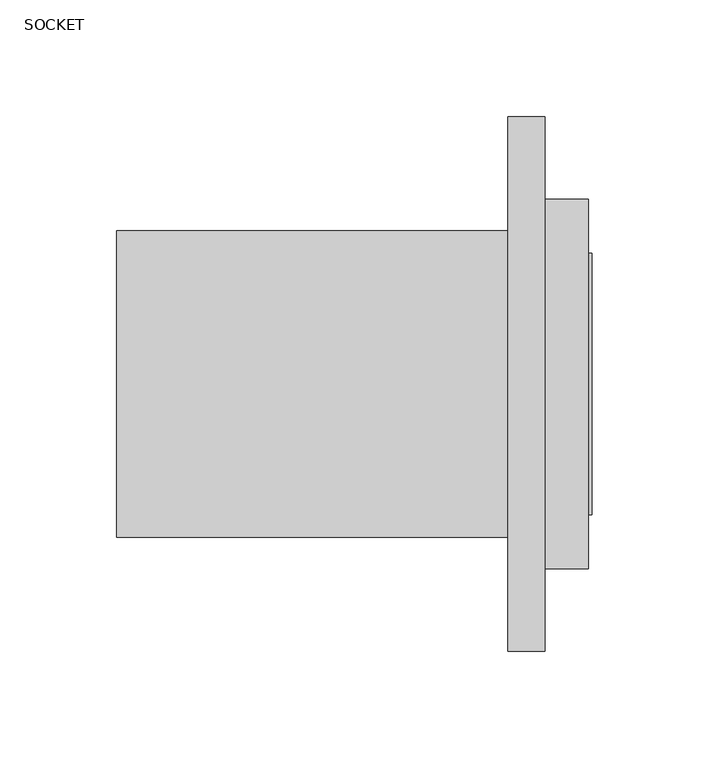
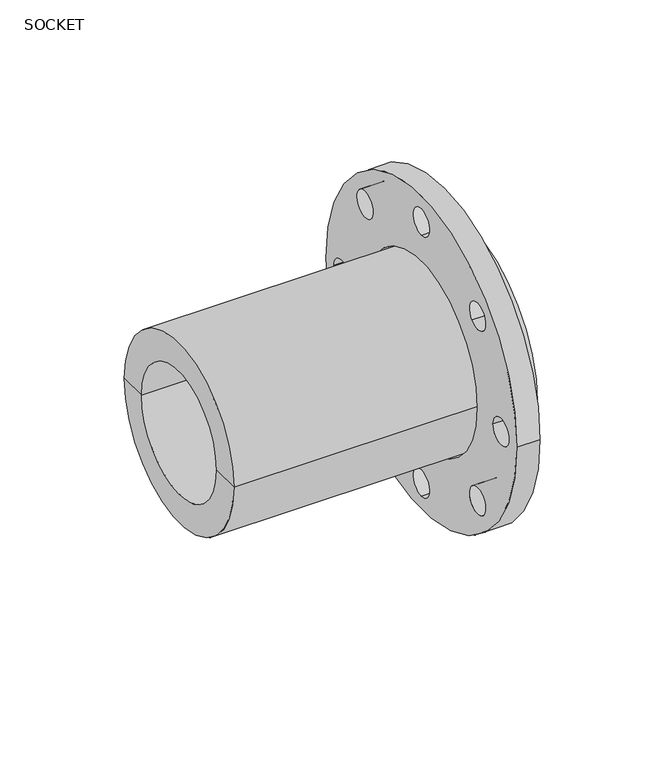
"""IFC4 building model written with IfcOpenShell, lengths in millimetres: valve geometry, Aquatherm - Flange Adapter Socket : SOCKET."""

from ifc_helpers import new_model, si_unit, point, frame, frame_2d, origin, origin_2d, place, context, project, spatial, polyline, circle_curve, trimmed, segment, composite_curve, outline, extrude, source, transform, mapped, element, save
from ifc_brep_helpers import plane_surface, cylinder_surface, revolved_surface, advanced_brep


def socket_3facf4fc(model_context):
    return source(origin(), model_context, "Body", "SolidModel", [
        extrude(outline(composite_curve([segment(trimmed(circle_curve(origin_2d(), 114.3), [point((-114.3, 0.0))], [point((114.3, 0.0))], False, "CARTESIAN"), True, "CONTINUOUS"), segment(trimmed(circle_curve(origin_2d(), 114.3), [point((114.3, 0.0))], [point((-114.3, 0.0))], False, "CARTESIAN"), True, "CONTINUOUS")], self_intersect=False), holes=[composite_curve([segment(trimmed(circle_curve(origin_2d(), 66.675), [point((-66.675, 0.0))], [point((66.675, 0.0))], True, "CARTESIAN"), True, "CONTINUOUS"), segment(trimmed(circle_curve(origin_2d(), 66.675), [point((66.675, 0.0))], [point((-66.675, 0.0))], True, "CARTESIAN"), True, "CONTINUOUS")], self_intersect=False), composite_curve([segment(trimmed(circle_curve(frame_2d((95.25, 0.0)), 9.525), [point((85.725, 0.0))], [point((104.775, 0.0))], True, "CARTESIAN"), True, "CONTINUOUS"), segment(trimmed(circle_curve(frame_2d((95.25, 0.0)), 9.525), [point((104.775, 0.0))], [point((85.725, 0.0))], True, "CARTESIAN"), True, "CONTINUOUS")], self_intersect=False), composite_curve([segment(trimmed(circle_curve(frame_2d((67.3519209, -67.3519209)), 9.525), [point((60.6167288, -60.6167288))], [point((74.087113, -74.087113))], True, "CARTESIAN"), True, "CONTINUOUS"), segment(trimmed(circle_curve(frame_2d((67.3519209, -67.3519209)), 9.525), [point((74.087113, -74.087113))], [point((60.6167288, -60.6167288))], True, "CARTESIAN"), True, "CONTINUOUS")], self_intersect=False), composite_curve([segment(trimmed(circle_curve(frame_2d((67.3519209, 67.3519209)), 9.525), [point((60.6167288, 60.6167288))], [point((74.087113, 74.087113))], True, "CARTESIAN"), True, "CONTINUOUS"), segment(trimmed(circle_curve(frame_2d((67.3519209, 67.3519209)), 9.525), [point((74.087113, 74.087113))], [point((60.6167288, 60.6167288))], True, "CARTESIAN"), True, "CONTINUOUS")], self_intersect=False), composite_curve([segment(trimmed(circle_curve(frame_2d((0.0, 95.25)), 9.525), [point((0.0, 85.725))], [point((0.0, 104.775))], True, "CARTESIAN"), True, "CONTINUOUS"), segment(trimmed(circle_curve(frame_2d((0.0, 95.25)), 9.525), [point((0.0, 104.775))], [point((0.0, 85.725))], True, "CARTESIAN"), True, "CONTINUOUS")], self_intersect=False), composite_curve([segment(trimmed(circle_curve(frame_2d((-67.3519209, 67.3519209)), 9.525), [point((-60.6167288, 60.6167288))], [point((-74.087113, 74.087113))], True, "CARTESIAN"), True, "CONTINUOUS"), segment(trimmed(circle_curve(frame_2d((-67.3519209, 67.3519209)), 9.525), [point((-74.087113, 74.087113))], [point((-60.6167288, 60.6167288))], True, "CARTESIAN"), True, "CONTINUOUS")], self_intersect=False), composite_curve([segment(trimmed(circle_curve(frame_2d((-95.25, 0.0)), 9.525), [point((-85.725, 0.0))], [point((-104.775, 0.0))], True, "CARTESIAN"), True, "CONTINUOUS"), segment(trimmed(circle_curve(frame_2d((-95.25, 0.0)), 9.525), [point((-104.775, 0.0))], [point((-85.725, 0.0))], True, "CARTESIAN"), True, "CONTINUOUS")], self_intersect=False), composite_curve([segment(trimmed(circle_curve(frame_2d((-67.3519209, -67.3519209)), 9.525), [point((-60.6167288, -60.6167288))], [point((-74.087113, -74.087113))], True, "CARTESIAN"), True, "CONTINUOUS"), segment(trimmed(circle_curve(frame_2d((-67.3519209, -67.3519209)), 9.525), [point((-74.087113, -74.087113))], [point((-60.6167288, -60.6167288))], True, "CARTESIAN"), True, "CONTINUOUS")], self_intersect=False), composite_curve([segment(trimmed(circle_curve(frame_2d((0.0, -95.25)), 9.525), [point((0.0, -85.725))], [point((0.0, -104.775))], True, "CARTESIAN"), True, "CONTINUOUS"), segment(trimmed(circle_curve(frame_2d((0.0, -95.25)), 9.525), [point((0.0, -104.775))], [point((0.0, -85.725))], True, "CARTESIAN"), True, "CONTINUOUS")], self_intersect=False)]), frame((-16.002, 0.0, 0.0), z_axis=(1.0, 0.0, 0.0), x_axis=(0.0, 1.0, 0.0)), (0.0, 0.0, 1.0), 16.002),
        advanced_brep(
        [(20.066, 50.8, 0.0), (20.066, -50.8, 0.0), (20.066, -55.88, 0.0), (20.066, 55.88, 0.0), (0.0, 50.8, 0.0), (0.0, -50.8, 0.0), (0.0, 44.958, 0.0), (0.0, -44.958, 0.0), (-183.388, 44.958, 0.0), (-183.388, -44.958, 0.0), (-183.388, 65.532, 0.0), (-183.388, -65.532, 0.0), (0.0, 65.532, 0.0), (0.0, -65.532, 0.0), (0.0, 78.994, 0.0), (0.0, -78.994, 0.0), (18.542, 78.994, 0.0), (18.542, -78.994, 0.0), (18.542, 55.88, 0.0), (18.542, -55.88, 0.0)],
        [
            (0, 1, circle_curve(frame((20.066, 0.0, 0.0), z_axis=(-1.0, 0.0, 0.0), x_axis=(0.0, -1.0, 0.0)), 50.8)),
            (1, 2),
            (2, 3, circle_curve(frame((20.066, 0.0, 0.0), z_axis=(1.0, 0.0, 0.0), x_axis=(0.0, -1.0, 0.0)), 55.88)),
            (3, 0),
            (1, 0, circle_curve(frame((20.066, 0.0, 0.0), z_axis=(-1.0, 0.0, 0.0), x_axis=(0.0, -1.0, 0.0)), 50.8)),
            (3, 2, circle_curve(frame((20.066, 0.0, 0.0), z_axis=(1.0, 0.0, 0.0), x_axis=(0.0, -1.0, 0.0)), 55.88)),
            (4, 5, circle_curve(frame((0.0, 0.0, 0.0), z_axis=(-1.0, 0.0, 0.0), x_axis=(0.0, -1.0, 0.0)), 50.8)),
            (5, 1),
            (0, 4),
            (5, 4, circle_curve(frame((0.0, 0.0, 0.0), z_axis=(-1.0, 0.0, 0.0), x_axis=(0.0, -1.0, 0.0)), 50.8)),
            (6, 7, circle_curve(frame((0.0, 0.0, 0.0), z_axis=(-1.0, 0.0, 0.0), x_axis=(0.0, -1.0, 0.0)), 44.958)),
            (7, 5),
            (4, 6),
            (7, 6, circle_curve(frame((0.0, 0.0, 0.0), z_axis=(-1.0, 0.0, 0.0), x_axis=(0.0, -1.0, 0.0)), 44.958)),
            (8, 9, circle_curve(frame((-183.388, 0.0, 0.0), z_axis=(-1.0, 0.0, 0.0), x_axis=(0.0, -1.0, 0.0)), 44.958)),
            (9, 7),
            (6, 8),
            (9, 8, circle_curve(frame((-183.388, 0.0, 0.0), z_axis=(-1.0, 0.0, 0.0), x_axis=(0.0, -1.0, 0.0)), 44.958)),
            (10, 11, circle_curve(frame((-183.388, 0.0, 0.0), z_axis=(-1.0, 0.0, 0.0), x_axis=(0.0, -1.0, 0.0)), 65.532)),
            (11, 9),
            (8, 10),
            (11, 10, circle_curve(frame((-183.388, 0.0, 0.0), z_axis=(-1.0, 0.0, 0.0), x_axis=(0.0, -1.0, 0.0)), 65.532)),
            (12, 13, circle_curve(frame((0.0, 0.0, 0.0), z_axis=(-1.0, 0.0, 0.0), x_axis=(0.0, -1.0, 0.0)), 65.532)),
            (13, 11),
            (10, 12),
            (13, 12, circle_curve(frame((0.0, 0.0, 0.0), z_axis=(-1.0, 0.0, 0.0), x_axis=(0.0, -1.0, 0.0)), 65.532)),
            (14, 15, circle_curve(frame((0.0, 0.0, 0.0), z_axis=(-1.0, 0.0, 0.0), x_axis=(0.0, -1.0, 0.0)), 78.994)),
            (15, 13),
            (12, 14),
            (15, 14, circle_curve(frame((0.0, 0.0, 0.0), z_axis=(-1.0, 0.0, 0.0), x_axis=(0.0, -1.0, 0.0)), 78.994)),
            (16, 17, circle_curve(frame((18.542, 0.0, 0.0), z_axis=(-1.0, 0.0, 0.0), x_axis=(0.0, -1.0, 0.0)), 78.994)),
            (17, 15),
            (14, 16),
            (17, 16, circle_curve(frame((18.542, 0.0, 0.0), z_axis=(-1.0, 0.0, 0.0), x_axis=(0.0, -1.0, 0.0)), 78.994)),
            (18, 19, circle_curve(frame((18.542, 0.0, 0.0), z_axis=(-1.0, 0.0, 0.0), x_axis=(0.0, -1.0, 0.0)), 55.88)),
            (19, 17),
            (16, 18),
            (19, 18, circle_curve(frame((18.542, 0.0, 0.0), z_axis=(-1.0, 0.0, 0.0), x_axis=(0.0, -1.0, 0.0)), 55.88)),
            (2, 19),
            (18, 3),
        ],
        [
            plane_surface(frame((20.066, 0.0, 0.0), z_axis=(1.0, 0.0, 0.0), x_axis=(0.0, -1.0, 0.0))),
            revolved_surface(polyline([(20.06600000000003, -50.8, 0.0), (0.0, -50.8, 0.0)]), (1449.3611939, 0.0, 0.0), (1.0, 0.0, 0.0)),
            plane_surface(frame((0.0, 0.0, 0.0), z_axis=(1.0, 0.0, 0.0), x_axis=(0.0, -1.0, 0.0))),
            revolved_surface(polyline([(0.0, -44.958, 0.0), (-183.38799999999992, -44.958, 0.0)]), (1449.3611939, 0.0, 0.0), (1.0, 0.0, 0.0)),
            plane_surface(frame((-183.388, 0.0, 0.0), z_axis=(-1.0, 0.0, 0.0), x_axis=(0.0, -1.0, 0.0))),
            cylinder_surface(frame((1449.3611939, 0.0, 0.0), z_axis=(1.0, 0.0, 0.0), x_axis=(0.0, -1.0, 0.0)), 65.532),
            plane_surface(frame((0.0, 0.0, 0.0), z_axis=(-1.0, 0.0, 0.0), x_axis=(0.0, -1.0, 0.0))),
            cylinder_surface(frame((1449.3611939, 0.0, 0.0), z_axis=(1.0, 0.0, 0.0), x_axis=(0.0, -1.0, 0.0)), 78.994),
            plane_surface(frame((18.542, 0.0, 0.0), z_axis=(1.0, 0.0, 0.0), x_axis=(0.0, -1.0, 0.0))),
            cylinder_surface(frame((1449.3611939, 0.0, 0.0), z_axis=(1.0, 0.0, 0.0), x_axis=(0.0, -1.0, 0.0)), 55.88),
        ],
        [
            (0, [[1, 2, 3, 4]]),
            (0, [[5, -4, 6, -2]]),
            (1, [[7, 8, -1, 9]]),
            (1, [[10, -9, -5, -8]]),
            (2, [[11, 12, -7, 13]]),
            (2, [[14, -13, -10, -12]]),
            (3, [[15, 16, -11, 17]]),
            (3, [[18, -17, -14, -16]]),
            (4, [[19, 20, -15, 21]]),
            (4, [[22, -21, -18, -20]]),
            (5, [[23, 24, -19, 25]]),
            (5, [[26, -25, -22, -24]]),
            (6, [[27, 28, -23, 29]]),
            (6, [[30, -29, -26, -28]]),
            (7, [[31, 32, -27, 33]]),
            (7, [[34, -33, -30, -32]]),
            (8, [[35, 36, -31, 37]]),
            (8, [[38, -37, -34, -36]]),
            (9, [[-3, 39, -35, 40]]),
            (9, [[-6, -40, -38, -39]]),
        ],
    ),
    ])


if __name__ == "__main__":
    model = new_model("IFC4")
    model_context = context("Model", 3, world=origin())
    ifc_project = project(units=[si_unit("LENGTHUNIT", "METRE", prefix="MILLI")], contexts=[model_context])
    site = spatial("IfcSite", under=ifc_project)
    building = spatial("IfcBuilding", under=site)
    placement = place(None, origin())
    ifc_socket_shape = socket_3facf4fc(model_context)
    element("IfcValve", 1, ObjectType="Aquatherm - Flange Adapter Socket : SOCKET", at=placement, inside=building, context=model_context, shape_type="MappedRepresentation", body=[
        mapped(ifc_socket_shape, transform((0.0, 0.0, 0.0), x_axis=(1.0, 0.0, 0.0), y_axis=(0.0, 1.0, 0.0), z_axis=(0.0, 0.0, 1.0))),
    ])
    save(model, "model.ifc")
